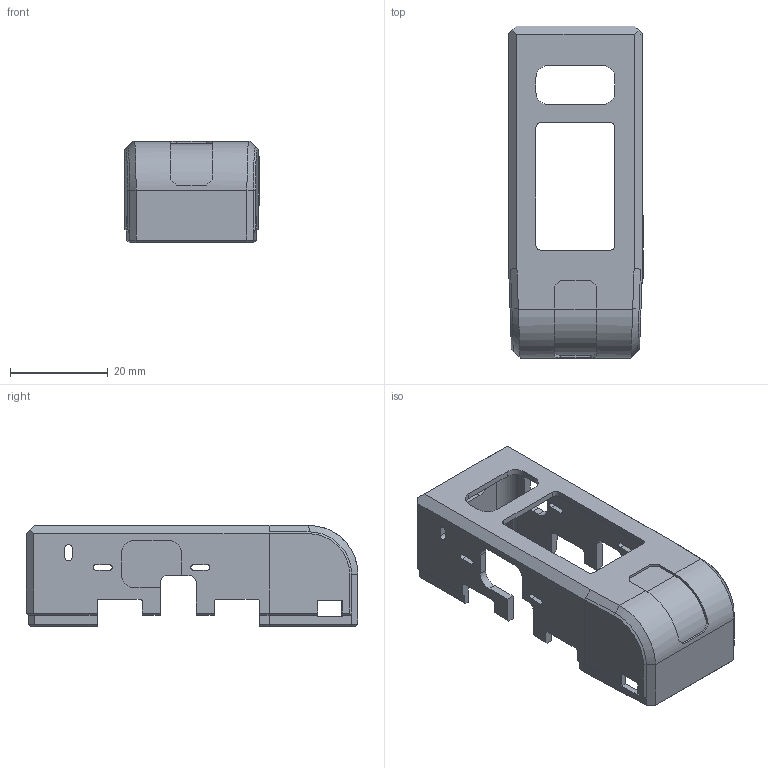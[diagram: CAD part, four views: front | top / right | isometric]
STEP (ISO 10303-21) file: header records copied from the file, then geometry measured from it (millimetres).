
FILE_DESCRIPTION(('Open CASCADE Model'),'2;1');
FILE_NAME('Open CASCADE Shape Model','2026-10-19T13:30:34',('Author'),( 'Open CASCADE'),'Open CASCADE STEP processor 7.9','Open CASCADE 7.9' ,'Unknown');
FILE_SCHEMA(('AUTOMOTIVE_DESIGN { 1 0 10303 214 1 1 1 1 }'));
Length unit declared in the file: millimetre
Products named in the file (1): Open CASCADE STEP translator 7.9 1
Bounding box: 27.6 x 68 x 20.7 mm (x, y, z)
Volume: 5511.9 mm3; surface area: 8546 mm2
Topology: 1 solids, 1 shells, 259 faces, 736 edges, 478 vertices
Faces by surface type: plane 166, cylinder 58, bspline 35
Entity records: 18733 total; most frequent: CARTESIAN_POINT 4822, DIRECTION 2329, LINE 1553, VECTOR 1553, ORIENTED_EDGE 1472, PCURVE 1472, DEFINITIONAL_REPRESENTATION 1472, EDGE_CURVE 736
